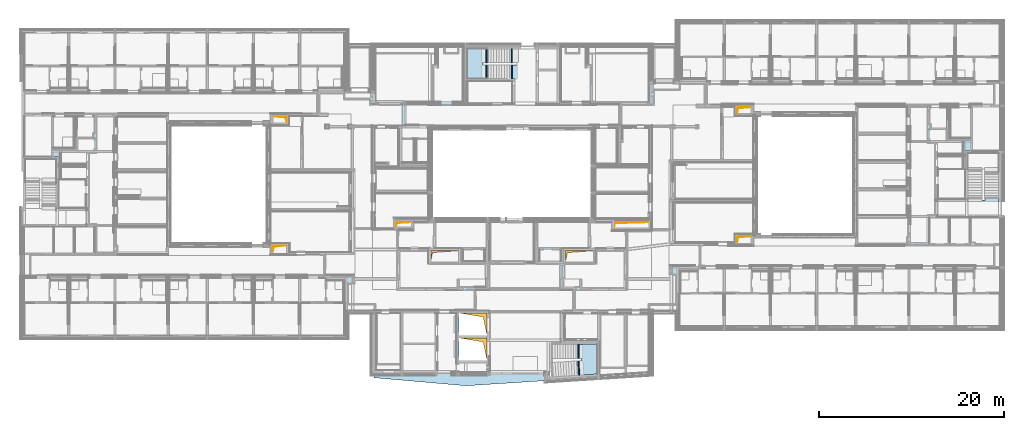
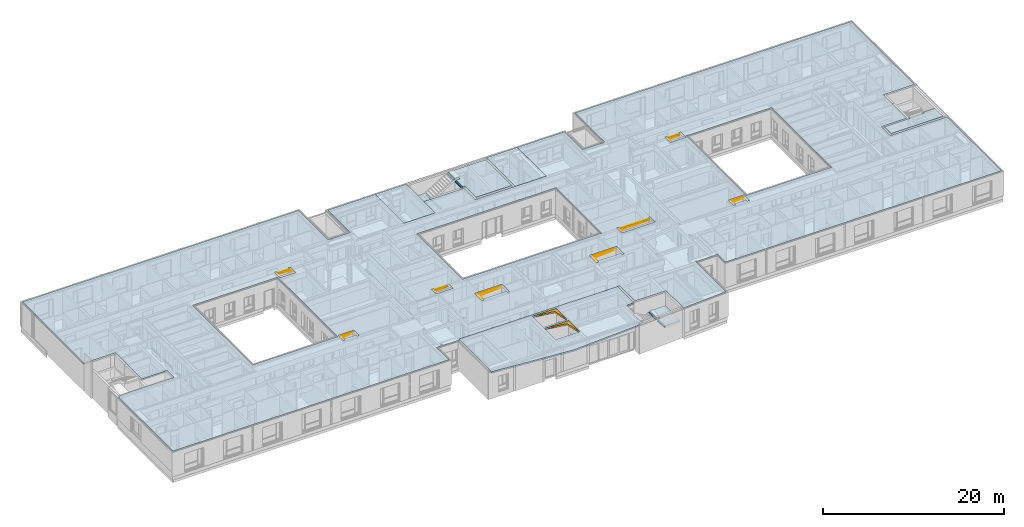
# One storey, part 7 of 207: 14 slabs, 10 windows, 10 openings.
"""IFC4 building model written with IfcOpenShell, lengths in metres."""

from ifc_helpers import new_model, entity, si_unit, converted_unit, derived_unit, frame, frame_2d, origin, origin_with_axes, place, context, subcontext, project, spatial, polyline, rectangle, outline, extrude, open_shell, surface_model, source, transform, mapped, material, element, fill, save


model = new_model("IFC4")

# Units and contexts
model_context = context("Model", 3, precision=1e-05, world=origin())
body_context = subcontext(model_context, "Body", "Model", "MODEL_VIEW")
ifc_project = project(units=[si_unit("LENGTHUNIT", "METRE"), si_unit("AREAUNIT", "SQUARE_METRE"), si_unit("VOLUMEUNIT", "CUBIC_METRE"), si_unit("MASSUNIT", "GRAM", prefix="KILO"), converted_unit("PLANEANGLEUNIT", "DEGREE", entity("IfcPlaneAngleMeasure", 0.0174532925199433), si_unit("PLANEANGLEUNIT", "RADIAN"), dimensions=[0, 0, 0, 0, 0, 0, 0]), derived_unit("THERMALTRANSMITTANCEUNIT", [(si_unit("POWERUNIT", "WATT"), 1), (si_unit("THERMODYNAMICTEMPERATUREUNIT", "KELVIN"), -1), (si_unit("LENGTHUNIT", "METRE"), -2)]), derived_unit("VOLUMETRICFLOWRATEUNIT", [(si_unit("LENGTHUNIT", "METRE"), 3), (converted_unit("TIMEUNIT", "hour", entity("IfcTimeMeasure", 3600.0), si_unit("TIMEUNIT", "SECOND"), dimensions=[0, 0, 1, 0, 0, 0, 0]), -1), (si_unit("LENGTHUNIT", "METRE"), -1)])], contexts=[model_context])

# Site, building, storey
site_placement = place(None, origin())
site = spatial("IfcSite", under=ifc_project, at=site_placement, Name="Psychiatrie Neubau Wunstorf", CompositionType="ELEMENT")
building_placement = place(site_placement, origin())
building = spatial("IfcBuilding", under=site, at=building_placement, Name="Neubau H2 Stationsgebäude", CompositionType="ELEMENT")
storey_placement = place(building_placement, frame((0.0, 0.0, -0.2)))
storey = spatial("IfcBuildingStorey", under=building, at=storey_placement, Name="H2 Ebene 0", CompositionType="ELEMENT", Elevation=-0.2)

# Slabs
ifc_material_1 = material(Name="STB")
slab_1_placement = place(storey_placement, frame((52.895, 25.6349951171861, 3.6)))
element("IfcSlab", 1, at=slab_1_placement, inside=storey, material=ifc_material_1, PredefinedType="FLOOR", context=body_context, shape_type="SweptSolid", body=[
    extrude(outline(polyline([(0.150000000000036, 1.50000487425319), (0.0, 1.50001097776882), (0.0, 6.103515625e-06), (0.15, 0.0), (0.150000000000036, 1.50000487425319)])), origin_with_axes(), (0.0, 0.0, 1.0), 0.16),
])
ifc_material_2 = material(Name="Stb")
slab_2_placement = place(storey_placement, frame((50.145, 25.6349999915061, 1.7655)))
element("IfcSlab", 2, at=slab_2_placement, inside=storey, material=ifc_material_2, PredefinedType="FLOOR", context=body_context, shape_type="SweptSolid", body=[
    extrude(rectangle(XDim=1.49999999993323, YDim=0.152048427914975, at=frame_2d((-0.0760242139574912, 0.749999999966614), x_axis=(0.0, 1.0))), frame((0.152048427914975, 0.0, 0.0), z_axis=(0.0, 0.0, 1.0), x_axis=(1.0, 0.0, 0.0)), (0.0, 0.0, 1.0), 0.14),
])
ifc_material_3 = material(Name="Stb")
slab_3_placement = place(storey_placement, frame((60.1100154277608, -4.63844407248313, 1.7655)))
element("IfcSlab", 3, at=slab_3_placement, inside=storey, material=ifc_material_3, PredefinedType="FLOOR", context=body_context, shape_type="SweptSolid", body=[
    extrude(outline(polyline([(0.15, 0.0), (0.15, 1.55000039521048), (0.0, 1.55000039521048), (0.0, 3.9521047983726e-07), (0.01, 0.0), (0.15, 0.0)])), origin_with_axes(), (0.0, 0.0, 1.0), 0.14),
])
ifc_material_4 = material(Name="H")
slab_4_placement = place(storey_placement, frame((58.1, 22.8639999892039, 3.56)))
element("IfcSlab", 4, at=slab_4_placement, inside=storey, material=ifc_material_4, PredefinedType="FLOOR", context=body_context, shape_type="SweptSolid", body=[
    extrude(rectangle(XDim=6.39599970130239, YDim=3.96250000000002, at=frame_2d((-1.98125000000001, 3.19799985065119), x_axis=(0.0, 1.0))), frame((3.96250000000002, 0.0, 0.0), z_axis=(0.0, 0.0, 1.0), x_axis=(1.0, 0.0, 0.0)), (0.0, 0.0, 1.0), 0.24),
])
ifc_material_5 = material(Name="Stb")
slab_5_placement = place(storey_placement, frame((53.0446466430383, 23.1549999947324, 3.6)))
element("IfcSlab", 5, at=slab_5_placement, inside=storey, material=ifc_material_5, PredefinedType="FLOOR", context=body_context, shape_type="SweptSolid", body=[
    extrude(outline(polyline([(0.000363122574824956, 3.97999999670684), (0.000363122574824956, 3.98000610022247), (0.000359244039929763, 3.98000610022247), (0.000359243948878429, 3.97999999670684), (0.000353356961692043, 3.58538113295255), (0.000353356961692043, 2.4799951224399), (0.255353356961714, 2.47999876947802), (0.255353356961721, 0.0), (4.80535335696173, 0.0), (4.80535335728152, 5.73999969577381), (2.8053533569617, 5.73999969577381), (0.0, 5.73999606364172), (0.000363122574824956, 5.73999604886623), (0.000363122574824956, 4.23999359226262), (0.485353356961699, 4.23999359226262), (0.485353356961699, 3.97999999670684), (0.000363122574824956, 3.97999999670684)])), origin_with_axes(), (0.0, 0.0, 1.0), 0.25),
])
ifc_material_6 = material(Name="STB")
slab_6_placement = place(storey_placement, frame((52.8950097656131, 27.3949939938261, 3.6)))
element("IfcSlab", 6, at=slab_6_placement, inside=storey, material=ifc_material_6, PredefinedType="FLOOR", context=body_context, shape_type="SweptSolid", body=[
    extrude(outline(polyline([(0.15, 1.50000204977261), (0.0, 1.50000815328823), (0.0, 5.69668462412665e-06), (0.15, 0.0), (0.15, 1.50000204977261)])), origin_with_axes(), (0.0, 0.0, 1.0), 0.16),
])
ifc_material_7 = material(Name="Stb")
slab_7_placement = place(storey_placement, frame((99.1199999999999, 10.8749998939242, 3.6)))
element("IfcSlab", 7, at=slab_7_placement, inside=storey, material=ifc_material_7, PredefinedType="FLOOR", context=body_context, shape_type="SweptSolid", body=[
    extrude(outline(polyline([(1.16000000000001, 0.454930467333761), (1.16000000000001, 0.263311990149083), (0.810000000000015, 0.263324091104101), (0.810000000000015, 0.455045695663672), (-0.689999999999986, 0.455045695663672), (-0.689999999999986, 0.163324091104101), (-3.94000000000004, 0.163324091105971), (-3.94000000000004, -1.33667590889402), (2.65999999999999, -1.33667590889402), (2.65999999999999, 0.455045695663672), (1.16000000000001, 0.454930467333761)])), frame((3.94000000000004, 1.33667590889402, 0.0), z_axis=(0.0, 0.0, 1.0), x_axis=(1.0, 0.0, 0.0)), (0.0, 0.0, 1.0), 0.25),
    extrude(outline(polyline([(0.999999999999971, 3.84094433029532e-05), (-0.5, 3.84094433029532e-05), (-0.5, -7.68188866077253e-05), (0.999999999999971, 3.84094433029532e-05)])), frame((5.60000000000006, 1.79168319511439, 0.16), z_axis=(0.0, 0.0, 1.0), x_axis=(1.0, 0.0, 0.0)), (0.0, 0.0, 1.0), 0.09),
])
ifc_material_8 = material(Name="H")
slab_8_placement = place(storey_placement, frame((43.9375, 22.8639999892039, 3.56)))
element("IfcSlab", 8, at=slab_8_placement, inside=storey, material=ifc_material_8, PredefinedType="FLOOR", context=body_context, shape_type="SweptSolid", body=[
    extrude(rectangle(XDim=6.39599970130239, YDim=3.96249999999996, at=frame_2d((-1.98124999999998, 3.1979998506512), x_axis=(0.0, 1.0))), frame((3.96249999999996, 0.0, 0.0), z_axis=(0.0, 0.0, 1.0), x_axis=(1.0, 0.0, 0.0)), (0.0, 0.0, 1.0), 0.24),
])
ifc_material_9 = material(Name="Stb")
slab_9_placement = place(storey_placement, frame((60.1106174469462, -6.46167585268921, 1.7655)))
element("IfcSlab", 9, at=slab_9_placement, inside=storey, material=ifc_material_9, PredefinedType="FLOOR", context=body_context, shape_type="SweptSolid", body=[
    extrude(outline(polyline([(0.0, 1.49527291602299), (0.0961312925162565, 0.0), (0.245823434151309, 0.00960534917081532), (0.149692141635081, 1.50487826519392), (0.0, 1.49527291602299)])), origin_with_axes(), (0.0, 0.0, 1.0), 0.14),
])
ifc_material_10 = material(Name="Stb")
slab_10_placement = place(storey_placement, frame((60.1106174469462, -6.4520705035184, 1.7655)))
element("IfcSlab", 10, at=slab_10_placement, inside=storey, material=ifc_material_10, PredefinedType="FLOOR", context=body_context, shape_type="SweptSolid", body=[
    extrude(outline(polyline([(0.149397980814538, 3.36362682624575), (0.149397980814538, 1.81362643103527), (0.00939798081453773, 1.81362643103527), (0.439159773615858, 1.81357918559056), (0.439095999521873, 1.51385804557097), (0.0, 1.48566756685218), (0.149692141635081, 1.4952729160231), (0.245823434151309, 0.0), (2.13917620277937, 0.121514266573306), (2.13917620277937, 3.36357918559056), (0.149397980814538, 3.36362682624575)])), origin_with_axes(), (0.0, 0.0, 1.0), 0.25),
])
ifc_material_11 = material(Name="Stb")
slab_11_placement = place(storey_placement, frame((50.145, 27.3949996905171, 1.7655)))
element("IfcSlab", 11, at=slab_11_placement, inside=storey, material=ifc_material_11, PredefinedType="FLOOR", context=body_context, shape_type="SweptSolid", body=[
    extrude(rectangle(XDim=1.49999999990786, YDim=0.162048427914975, at=frame_2d((-0.0810242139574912, 0.749999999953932), x_axis=(0.0, 1.0))), frame((0.162048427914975, 0.0, 0.0), z_axis=(0.0, 0.0, 1.0), x_axis=(1.0, 0.0, 0.0)), (0.0, 0.0, 1.0), 0.14),
])
ifc_material_12 = material(Name="Stb")
slab_12_placement = place(storey_placement, frame((48.15, 25.6349999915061, 1.7655)))
element("IfcSlab", 12, at=slab_12_placement, inside=storey, material=ifc_material_12, PredefinedType="FLOOR", context=body_context, shape_type="SweptSolid", body=[
    extrude(outline(polyline([(1.995, 3.25999969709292), (0.0, 3.25999969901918), (0.0, 0.0), (1.995, 0.0), (1.995, 1.49999999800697), (1.7, 1.49999999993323), (1.7, 1.75999969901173), (1.995, 1.75999969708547), (1.995, 3.25999969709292)])), origin_with_axes(), (0.0, 0.0, 1.0), 0.25),
])

# Slab, openings, windows
ifc_material_13 = material(Name="H")
slab_13_placement = place(storey_placement, frame((-0.121000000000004, -6.6802504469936, 3.6)))
slab_13 = element("IfcSlab", 13, at=slab_13_placement, inside=storey, material=ifc_material_13, PredefinedType="FLOOR", context=body_context, shape_type="SweptSolid", body=[
    extrude(outline(polyline([(41.0504404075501, 7.20524981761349), (55.5106630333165, 7.20524667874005), (55.5106630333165, 7.20538478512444), (58.3989901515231, 7.2052460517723), (58.6490000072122, 7.2052504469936), (58.649000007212, 3.8417591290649), (62.6207936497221, 3.8417591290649), (62.6207936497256, 0.365736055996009), (62.6210107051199, 0.365749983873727), (62.6210107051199, 0.0), (68.2634937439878, 0.362353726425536), (68.2635, 7.0202528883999), (71.036, 7.02025013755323), (71.036, 5.32025044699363), (106.206, 5.32025044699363), (106.206, 17.3052503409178), (98.9909999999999, 17.3052503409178), (98.9909999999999, 19.3052503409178), (102.241, 19.3052503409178), (102.241, 24.5052504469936), (106.206, 24.5052504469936), (106.206, 38.4902504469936), (71.036, 38.4902504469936), (71.036, 31.9902504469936), (68.206, 31.9902504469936), (68.206, 35.9402501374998), (62.1835, 35.9402501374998), (62.1835, 29.5442504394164), (53.1710000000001, 29.5442504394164), (53.1710000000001, 32.0652504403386), (48.021, 32.0652504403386), (48.021, 29.5442504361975), (44.0585, 29.5442504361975), (44.0585, 35.9402501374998), (38.0335, 35.9402501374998), (38.0335, 30.9902504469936), (35.206, 30.9902504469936), (35.206, 37.4902504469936), (0.0360000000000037, 37.4902504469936), (0.0360000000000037, 32.0695130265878), (0.0, 32.0695130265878), (0.0, 23.8752355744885), (4.001, 23.8752503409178), (4.001, 18.0552503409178), (7.251, 18.0552503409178), (7.251, 16.5552503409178), (0.151000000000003, 16.5552503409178), (0.151000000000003, 16.3052503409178), (0.0370000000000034, 16.3052503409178), (0.0370000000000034, 4.32025044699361), (35.206, 4.32025044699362), (35.206, 7.0202528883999), (38.151, 7.0202528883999), (38.151, 7.2052504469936), (40.7509987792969, 7.20524988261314), (40.7509987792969, 7.20527125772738), (47.5709989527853, 7.20527125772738), (47.5709989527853, 7.2052504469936), (41.0504404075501, 7.20524981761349)]), holes=[polyline([(44.2560000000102, 27.0702484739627), (61.9860000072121, 27.0702484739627), (61.9860000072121, 16.9902501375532), (44.2560000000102, 16.9902501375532), (44.2560000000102, 27.0702484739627)]), polyline([(15.956, 14.2902504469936), (15.956, 27.5202504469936), (26.786, 27.5202504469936), (26.786, 14.2902504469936), (15.956, 14.2902504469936)]), polyline([(90.286, 15.2902504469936), (79.456, 15.2902504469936), (79.456, 28.5202504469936), (90.286, 28.5202504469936), (90.286, 15.2902504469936)]), polyline([(58.6710000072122, 13.9552501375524), (62.1710000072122, 13.9552501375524), (62.1710000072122, 12.3277501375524), (61.9210000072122, 12.3277501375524), (61.9209889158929, 12.577750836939), (58.9209899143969, 12.577750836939), (58.9210000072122, 12.3277501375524), (58.6710000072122, 12.3277501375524), (58.6710000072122, 13.9552501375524)]), polyline([(47.3209950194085, 12.577750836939), (44.3209950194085, 12.577750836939), (44.3210000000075, 12.3277506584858), (44.0710000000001, 12.3277506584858), (44.0710000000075, 13.6907490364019), (44.0710000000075, 13.9552501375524), (47.5710000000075, 13.9552501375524), (47.5710000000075, 12.3277506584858), (47.3210000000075, 12.3277506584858), (47.3209950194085, 12.577750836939)]), polyline([(63.9310000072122, 17.0262501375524), (64.1810000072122, 17.0262501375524), (64.1809925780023, 16.7762495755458), (67.9809925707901, 16.7762495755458), (67.981, 17.0262501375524), (68.2009889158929, 17.0262495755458), (68.2009889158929, 15.9152495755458), (63.9310000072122, 15.9152501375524), (63.9310000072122, 17.0262501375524)]), polyline([(77.271, 15.5052504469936), (79.271, 15.5052504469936), (79.271, 14.3177504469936), (79.021, 14.3177504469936), (79.0209894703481, 14.5677499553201), (77.5209889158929, 14.5677499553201), (77.521, 14.3177504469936), (77.271, 14.3177504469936), (77.271, 15.5052504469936)]), polyline([(79.021, 29.4862504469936), (79.271, 29.4862504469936), (79.271, 28.3052504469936), (77.271, 28.3052504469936), (77.271, 29.4862504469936), (77.521, 29.4862504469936), (77.5210011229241, 29.2362513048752), (79.0210011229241, 29.2362513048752), (79.021, 29.4862504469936)]), polyline([(28.971, 13.3222504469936), (28.721, 13.3222504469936), (28.721, 14.2552504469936), (27.221, 14.2552504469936), (27.221, 13.3222504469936), (26.971, 13.3222504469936), (26.971, 14.5052504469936), (28.971, 14.5052504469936), (28.971, 13.3222504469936)]), polyline([(28.971, 27.3052504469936), (26.971, 27.3052504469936), (26.9710011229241, 28.4862507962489), (27.221000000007, 28.4862500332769), (27.2210000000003, 27.5552504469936), (28.7210000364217, 27.5552504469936), (28.7210008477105, 28.4862454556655), (28.971, 28.4862504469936), (28.971, 27.3052504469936)]), polyline([(40.570951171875, 17.0262502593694), (40.570951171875, 16.265247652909), (42.220951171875, 16.265247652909), (42.220951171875, 16.7942502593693), (42.470951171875, 16.7942502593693), (42.470951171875, 16.0152466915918), (40.320951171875, 16.0152466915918), (40.320951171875, 17.0262502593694), (40.570951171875, 17.0262502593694)])]), origin_with_axes(), (0.0, 0.0, 1.0), 0.2),
])
opening_1_placement = place(slab_13_placement, frame((27.2210000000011, 27.5552504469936, 0.0)))
opening_1 = element("IfcOpeningElement", 14, at=opening_1_placement, cuts=slab_13, Name="Deckendurchbruch", ObjectType="Opening", context=body_context, shape_type="SweptSolid", body=[
    extrude(rectangle(XDim=1.50000005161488, YDim=0.680997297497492, at=frame_2d((0.0, 0.0), x_axis=(-1.0, 0.0))), frame((0.75000002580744, 0.340498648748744, 0.0), z_axis=(0.0, 0.0, 1.0), x_axis=(1.0, 0.0, 0.0)), (0.0, 0.0, 1.0), 0.2),
])
opening_2_placement = place(slab_13_placement, frame((64.180988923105, 16.1652480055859, 0.0)))
opening_2 = element("IfcOpeningElement", 15, at=opening_2_placement, cuts=slab_13, Name="Deckendurchbruch", ObjectType="Opening", context=body_context, shape_type="SweptSolid", body=[
    extrude(rectangle(XDim=0.61100156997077, YDim=3.79999999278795, at=frame_2d((0.0, 0.0), x_axis=(-5.98181324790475e-06, -0.999999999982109))), frame((1.90000182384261, 0.30550078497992, 0.0), z_axis=(0.0, 0.0, 1.0), x_axis=(1.0, 0.0, 0.0)), (0.0, 0.0, 1.0), 0.2),
])
opening_3_placement = place(slab_13_placement, frame((44.3209950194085, 12.577750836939, 0.0)))
opening_3 = element("IfcOpeningElement", 16, at=opening_3_placement, cuts=slab_13, Name="Deckendurchbruch", ObjectType="Opening", context=body_context, shape_type="SweptSolid", body=[
    extrude(rectangle(XDim=1.12749930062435, YDim=3.0, at=frame_2d((0.0, 0.0), x_axis=(-4.41738539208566e-06, -0.999999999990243))), frame((1.50000249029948, 0.563749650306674, 0.0), z_axis=(0.0, 0.0, 1.0), x_axis=(1.0, 0.0, 0.0)), (0.0, 0.0, 1.0), 0.2),
])
opening_4_placement = place(slab_13_placement, frame((77.521, 28.5552504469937, 0.0)))
opening_4 = element("IfcOpeningElement", 17, at=opening_4_placement, cuts=slab_13, Name="Deckendurchbruch", ObjectType="Opening", context=body_context, shape_type="SweptSolid", body=[
    extrude(rectangle(XDim=0.681000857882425, YDim=1.5, at=frame_2d((0.0, 0.0), x_axis=(-1.64893204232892e-06, -0.999999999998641))), frame((0.75000056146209, 0.340500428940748, 0.0), z_axis=(0.0, 0.0, 1.0), x_axis=(1.0, 0.0, 0.0)), (0.0, 0.0, 1.0), 0.2),
])
opening_5_placement = place(slab_13_placement, frame((40.5709461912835, 16.265247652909, 0.0)))
opening_5 = element("IfcOpeningElement", 18, at=opening_5_placement, cuts=slab_13, Name="Deckendurchbruch", ObjectType="Opening", context=body_context, shape_type="SweptSolid", body=[
    extrude(rectangle(XDim=0.511001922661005, YDim=1.65, at=frame_2d((0.0, 0.0), x_axis=(9.74671761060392e-06, -0.999999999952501))), frame((0.825002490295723, 0.255500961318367, 0.0), z_axis=(0.0, 0.0, 1.0), x_axis=(1.0, 0.0, 0.0)), (0.0, 0.0, 1.0), 0.2),
])
opening_6_placement = place(slab_13_placement, frame((27.221, 13.5722487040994, 0.0)))
opening_6 = element("IfcOpeningElement", 19, at=opening_6_placement, cuts=slab_13, Name="Deckendurchbruch", ObjectType="Opening", context=body_context, shape_type="SweptSolid", body=[
    extrude(rectangle(XDim=0.683001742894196, YDim=1.5, at=frame_2d((0.0, 0.0), x_axis=(0.0, -1.0))), frame((0.75, 0.341500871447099, 0.0), z_axis=(0.0, 0.0, 1.0), x_axis=(1.0, 0.0, 0.0)), (0.0, 0.0, 1.0), 0.2),
])
opening_7_placement = place(slab_13_placement, frame((58.9209889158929, 12.577750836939, 0.0)))
opening_7 = element("IfcOpeningElement", 20, at=opening_7_placement, cuts=slab_13, Name="Deckendurchbruch", ObjectType="Opening", context=body_context, shape_type="SweptSolid", body=[
    extrude(rectangle(XDim=1.12749350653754, YDim=3.0, at=frame_2d((0.0, 0.0), x_axis=(0.0, -1.0))), frame((1.50000000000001, 0.563746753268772, 0.0), z_axis=(0.0, 0.0, 1.0), x_axis=(1.0, 0.0, 0.0)), (0.0, 0.0, 1.0), 0.2),
])
opening_8_placement = place(slab_13_placement, frame((77.5210011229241, 14.5677499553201, 0.0)))
opening_8 = element("IfcOpeningElement", 21, at=opening_8_placement, cuts=slab_13, Name="Deckendurchbruch", ObjectType="Opening", context=body_context, shape_type="SweptSolid", body=[
    extrude(rectangle(XDim=0.687494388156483, YDim=1.5, at=frame_2d((0.0, 0.0), x_axis=(0.0, -1.0))), frame((0.75, 0.343747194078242, 0.0), z_axis=(0.0, 0.0, 1.0), x_axis=(1.0, 0.0, 0.0)), (0.0, 0.0, 1.0), 0.2),
])
shared_shape_1 = source(origin_with_axes(), body_context, "Body", "SurfaceModel", [
    surface_model("IfcShellBasedSurfaceModel", [(0.680997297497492, 0.0, 0.0), (0.0, 0.0, 0.0), (0.0, 1.50000005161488, 0.0), (0.120384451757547, 0.120384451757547, 0.0)], [open_shell([[[0, 1, 2, 3]]], orient=[[False]])]),
    surface_model("IfcShellBasedSurfaceModel", [(0.680997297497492, 0.0, 0.2), (0.0, 0.0, 0.2), (0.0, 1.50000005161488, 0.2), (0.120384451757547, 0.120384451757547, 0.2)], [open_shell([[[0, 1, 2, 3]]], orient=[[False]])]),
])
window_1_placement = place(opening_1_placement, frame((1.50000005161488, 0.680997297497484, 0.0), z_axis=(0.0, 0.0, 1.0), x_axis=(-1.22464679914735e-16, -1.0, 0.0)))
window_1 = element("IfcWindow", 22, at=window_1_placement, inside=storey, Name="Symbol BD", OverallHeight=1.5, OverallWidth=0.681, PartitioningType="USERDEFINED", PredefinedType="SKYLIGHT", context=body_context, shape_type="MappedRepresentation", body=[
    mapped(shared_shape_1, transform((0.0, 0.0, 0.0), x_axis=(1.0, 0.0, 0.0), y_axis=(0.0, -1.0, 0.0), z_axis=(0.0, 0.0, 1.0), scale=1.0)),
])
fill(opening_1, window_1)
shared_shape_2 = source(origin_with_axes(), body_context, "Body", "SurfaceModel", [
    surface_model("IfcShellBasedSurfaceModel", [(3.80000364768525, 0.611001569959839, 0.0), (3.65489728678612e-06, 0.611001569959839, 0.0), (0.0, 0.0, 0.0), (0.108014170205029, 0.502990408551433, 0.0)], [open_shell([[[0, 1, 2, 3]]], orient=[[False]])]),
    surface_model("IfcShellBasedSurfaceModel", [(3.80000364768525, 0.611001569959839, 0.2), (3.65489728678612e-06, 0.611001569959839, 0.2), (0.0, 0.0, 0.2), (0.108014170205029, 0.502990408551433, 0.2)], [open_shell([[[0, 1, 2, 3]]], orient=[[False]])]),
])
window_2_placement = place(opening_2_placement, origin())
window_2 = element("IfcWindow", 23, at=window_2_placement, inside=storey, Name="Symbol BD", OverallHeight=0.611, OverallWidth=3.8, PartitioningType="USERDEFINED", PredefinedType="SKYLIGHT", context=body_context, shape_type="MappedRepresentation", body=[
    mapped(shared_shape_2, transform((0.0, 0.0, 0.0), x_axis=(1.0, 0.0, 0.0), y_axis=(0.0, 1.0, 0.0), z_axis=(0.0, 0.0, 1.0), scale=1.0)),
])
fill(opening_2, window_2)
shared_shape_3 = source(origin_with_axes(), body_context, "Body", "SurfaceModel", [
    surface_model("IfcShellBasedSurfaceModel", [(3.00000498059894, 1.12749930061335, 0.0), (4.98059893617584e-06, 1.12749930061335, 0.0), (0.0, 0.0, 0.0), (0.199320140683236, 0.928183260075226, 0.0)], [open_shell([[[0, 1, 2, 3]]], orient=[[False]])]),
    surface_model("IfcShellBasedSurfaceModel", [(3.00000498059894, 1.12749930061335, 0.2), (4.98059893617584e-06, 1.12749930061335, 0.2), (0.0, 0.0, 0.2), (0.199320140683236, 0.928183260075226, 0.2)], [open_shell([[[0, 1, 2, 3]]], orient=[[False]])]),
])
window_3_placement = place(opening_3_placement, origin())
window_3 = element("IfcWindow", 24, at=window_3_placement, inside=storey, Name="Symbol BD", OverallHeight=1.1275, OverallWidth=3.0, PartitioningType="USERDEFINED", PredefinedType="SKYLIGHT", context=body_context, shape_type="MappedRepresentation", body=[
    mapped(shared_shape_3, transform((0.0, 0.0, 0.0), x_axis=(1.0, 0.0, 0.0), y_axis=(0.0, 1.0, 0.0), z_axis=(0.0, 0.0, 1.0), scale=1.0)),
])
fill(opening_3, window_3)
window_4_placement = place(opening_7_placement, origin())
window_4 = element("IfcWindow", 25, at=window_4_placement, inside=storey, Name="Symbol BD", OverallHeight=1.1275, OverallWidth=3.0, PartitioningType="USERDEFINED", PredefinedType="SKYLIGHT", context=body_context, shape_type="MappedRepresentation", body=[
    mapped(shared_shape_3, transform((0.0, 0.0, 0.0), x_axis=(1.0, 0.0, 0.0), y_axis=(0.0, 1.0, 0.0), z_axis=(0.0, 0.0, 1.0), scale=1.0)),
])
fill(opening_7, window_4)
shared_shape_4 = source(origin_with_axes(), body_context, "Body", "SurfaceModel", [
    surface_model("IfcShellBasedSurfaceModel", [(0.0, 0.0, 0.0), (1.5, 0.0, 0.0), (1.50000112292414, 0.681000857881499, 0.0), (1.37961501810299, 0.120385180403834, 0.0)], [open_shell([[[0, 1, 2, 3]]], orient=[[False]])]),
    surface_model("IfcShellBasedSurfaceModel", [(0.0, 0.0, 0.2), (1.5, 0.0, 0.2), (1.50000112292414, 0.681000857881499, 0.2), (1.37961501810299, 0.120385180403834, 0.2)], [open_shell([[[0, 1, 2, 3]]], orient=[[False]])]),
])
window_5_placement = place(opening_4_placement, frame((1.50000112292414, 0.6810008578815, 0.0), z_axis=(0.0, 0.0, 1.0), x_axis=(-1.0, 1.22464679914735e-16, 0.0)))
window_5 = element("IfcWindow", 26, at=window_5_placement, inside=storey, Name="Symbol BD", OverallHeight=0.681, OverallWidth=1.5, PartitioningType="USERDEFINED", PredefinedType="SKYLIGHT", context=body_context, shape_type="MappedRepresentation", body=[
    mapped(shared_shape_4, transform((0.0, 0.0, 0.0), x_axis=(1.0, 0.0, 0.0), y_axis=(0.0, 1.0, 0.0), z_axis=(0.0, 0.0, 1.0), scale=1.0)),
])
fill(opening_4, window_5)
shared_shape_5 = source(origin_with_axes(), body_context, "Body", "SurfaceModel", [
    surface_model("IfcShellBasedSurfaceModel", [(1.65000000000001, 0.511001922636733, 0.0), (0.0, 0.511001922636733, 0.0), (4.98059144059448e-06, 0.0, 0.0), (0.0903336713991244, 0.420669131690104, 0.0)], [open_shell([[[0, 1, 2, 3]]], orient=[[False]])]),
    surface_model("IfcShellBasedSurfaceModel", [(1.65000000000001, 0.511001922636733, 0.2), (0.0, 0.511001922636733, 0.2), (4.98059144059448e-06, 0.0, 0.2), (0.0903336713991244, 0.420669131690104, 0.2)], [open_shell([[[0, 1, 2, 3]]], orient=[[False]])]),
])
window_6_placement = place(opening_5_placement, origin())
window_6 = element("IfcWindow", 27, at=window_6_placement, inside=storey, Name="Symbol BD", OverallHeight=0.511, OverallWidth=1.65, PartitioningType="USERDEFINED", PredefinedType="SKYLIGHT", context=body_context, shape_type="MappedRepresentation", body=[
    mapped(shared_shape_5, transform((0.0, 0.0, 0.0), x_axis=(1.0, 0.0, 0.0), y_axis=(0.0, 1.0, 0.0), z_axis=(0.0, 0.0, 1.0), scale=1.0)),
])
fill(opening_5, window_6)
shared_shape_6 = source(origin_with_axes(), body_context, "Body", "SurfaceModel", [
    surface_model("IfcShellBasedSurfaceModel", [(1.5, 0.683001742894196, 0.0), (0.0, 0.683001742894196, 0.0), (0.0, 0.0, 0.0), (0.120738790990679, 0.562262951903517, 0.0)], [open_shell([[[0, 1, 2, 3]]], orient=[[False]])]),
    surface_model("IfcShellBasedSurfaceModel", [(1.5, 0.683001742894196, 0.2), (0.0, 0.683001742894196, 0.2), (0.0, 0.0, 0.2), (0.120738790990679, 0.562262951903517, 0.2)], [open_shell([[[0, 1, 2, 3]]], orient=[[False]])]),
])
window_7_placement = place(opening_6_placement, origin())
window_7 = element("IfcWindow", 28, at=window_7_placement, inside=storey, Name="Symbol BD", OverallHeight=0.683, OverallWidth=1.5, PartitioningType="USERDEFINED", PredefinedType="SKYLIGHT", context=body_context, shape_type="MappedRepresentation", body=[
    mapped(shared_shape_6, transform((0.0, 0.0, 0.0), x_axis=(1.0, 0.0, 0.0), y_axis=(0.0, 1.0, 0.0), z_axis=(0.0, 0.0, 1.0), scale=1.0)),
])
fill(opening_6, window_7)
shared_shape_7 = source(origin_with_axes(), body_context, "Body", "SurfaceModel", [
    surface_model("IfcShellBasedSurfaceModel", [(1.5, 0.687494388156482, 0.0), (0.0, 0.687494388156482, 0.0), (0.0, 0.0, 0.0), (0.121532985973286, 0.565961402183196, 0.0)], [open_shell([[[0, 1, 2, 3]]], orient=[[False]])]),
    surface_model("IfcShellBasedSurfaceModel", [(1.5, 0.687494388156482, 0.2), (0.0, 0.687494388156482, 0.2), (0.0, 0.0, 0.2), (0.121532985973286, 0.565961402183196, 0.2)], [open_shell([[[0, 1, 2, 3]]], orient=[[False]])]),
])
window_8_placement = place(opening_8_placement, origin())
window_8 = element("IfcWindow", 29, at=window_8_placement, inside=storey, Name="Symbol BD", OverallHeight=0.68749, OverallWidth=1.5, PartitioningType="USERDEFINED", PredefinedType="SKYLIGHT", context=body_context, shape_type="MappedRepresentation", body=[
    mapped(shared_shape_7, transform((0.0, 0.0, 0.0), x_axis=(1.0, 0.0, 0.0), y_axis=(0.0, 1.0, 0.0), z_axis=(0.0, 0.0, 1.0), scale=1.0)),
])
fill(opening_8, window_8)

ifc_material_14 = material(Name="Stb.")
slab_14_placement = place(storey_placement, frame((38.03, -7.60940844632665, 3.6)))
slab_14 = element("IfcSlab", 30, at=slab_14_placement, inside=storey, material=ifc_material_14, PredefinedType="FLOOR", context=body_context, shape_type="SweptSolid", body=[
    extrude(outline(polyline([(17.3596630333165, 8.13440405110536), (0.0, 8.13440844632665), (0.0, 0.877220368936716), (9.99834485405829, 0.0), (18.7633759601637, 0.562428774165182), (18.7633759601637, 0.928727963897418), (19.4307991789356, 0.994786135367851), (19.3362710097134, 2.46675956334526), (19.3297608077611, 2.97127052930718), (19.3300153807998, 4.52091712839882), (20.248000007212, 4.52091712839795), (20.2479901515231, 8.13440405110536), (17.3596630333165, 8.1345427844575), (17.3596630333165, 8.13440405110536)])), origin_with_axes(), (0.0, 0.0, 1.0), 0.2),
])
opening_9_placement = place(slab_14_placement, frame((9.23999515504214, 5.43440844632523, 0.0)))
opening_9 = element("IfcOpeningElement", 31, at=opening_9_placement, cuts=slab_14, Name="Deckendurchbruch", ObjectType="Opening", context=body_context, shape_type="SweptSolid", body=[
    extrude(rectangle(XDim=3.0299998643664, YDim=2.45001220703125, at=frame_2d((0.0, 0.0), x_axis=(-1.0, 0.0))), frame((1.51499993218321, 1.22500610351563, 0.0), z_axis=(0.0, 0.0, 1.0), x_axis=(1.0, 0.0, 0.0)), (0.0, 0.0, 1.0), 0.2),
])
opening_10_placement = place(slab_14_placement, frame((9.23999515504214, 2.73440234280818, 0.0)))
opening_10 = element("IfcOpeningElement", 32, at=opening_10_placement, cuts=slab_14, Name="Deckendurchbruch", ObjectType="Opening", context=body_context, shape_type="SweptSolid", body=[
    extrude(rectangle(XDim=3.0299998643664, YDim=2.45000610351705, at=frame_2d((0.0, 0.0), x_axis=(-1.0, 4.70055698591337e-13))), frame((1.51499993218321, 1.22500305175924, 0.0), z_axis=(0.0, 0.0, 1.0), x_axis=(1.0, 0.0, 0.0)), (0.0, 0.0, 1.0), 0.2),
])
shared_shape_8 = source(origin_with_axes(), body_context, "Body", "SurfaceModel", [
    surface_model("IfcShellBasedSurfaceModel", [(0.0, 0.0, 0.0), (2.45001220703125, 0.0, 0.0), (2.45001220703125, 3.0299998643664, 0.0), (2.01690714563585, 0.433105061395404, 0.0)], [open_shell([[[0, 1, 2, 3]]], orient=[[False]])]),
    surface_model("IfcShellBasedSurfaceModel", [(0.0, 0.0, 0.2), (2.45001220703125, 0.0, 0.2), (2.45001220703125, 3.0299998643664, 0.2), (2.01690714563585, 0.433105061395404, 0.2)], [open_shell([[[0, 1, 2, 3]]], orient=[[False]])]),
])
window_9_placement = place(opening_9_placement, frame((3.02999986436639, 0.0, 0.0), z_axis=(0.0, 0.0, 1.0), x_axis=(1.22464679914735e-16, 1.0, 0.0)))
window_9 = element("IfcWindow", 33, at=window_9_placement, inside=storey, Name="Symbol BD", OverallHeight=3.03, OverallWidth=2.45001, PartitioningType="USERDEFINED", PredefinedType="SKYLIGHT", context=body_context, shape_type="MappedRepresentation", body=[
    mapped(shared_shape_8, transform((0.0, 0.0, 0.0), x_axis=(1.0, 0.0, 0.0), y_axis=(0.0, 1.0, 0.0), z_axis=(0.0, 0.0, 1.0), scale=1.0)),
])
fill(opening_9, window_9)
shared_shape_9 = source(origin_with_axes(), body_context, "Body", "SurfaceModel", [
    surface_model("IfcShellBasedSurfaceModel", [(2.4500003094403, 3.0299951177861, 0.0), (0.0, 3.0299951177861, 0.0), (0.0, 0.0, 0.0), (0.433102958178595, 2.59689215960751, 0.0)], [open_shell([[[0, 1, 2, 3]]], orient=[[False]])]),
    surface_model("IfcShellBasedSurfaceModel", [(2.4500003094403, 3.0299951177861, 0.2), (0.0, 3.0299951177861, 0.2), (0.0, 0.0, 0.2), (0.433102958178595, 2.59689215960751, 0.2)], [open_shell([[[0, 1, 2, 3]]], orient=[[False]])]),
])
window_10_placement = place(opening_10_placement, frame((0.0, 2.45000610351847, 0.0), z_axis=(0.0, 0.0, 1.0), x_axis=(1.22464679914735e-16, -1.0, 0.0)))
window_10 = element("IfcWindow", 34, at=window_10_placement, inside=storey, Name="Symbol BD", OverallHeight=3.03, OverallWidth=2.45, PartitioningType="USERDEFINED", PredefinedType="SKYLIGHT", context=body_context, shape_type="MappedRepresentation", body=[
    mapped(shared_shape_9, transform((0.0, 0.0, 0.0), x_axis=(1.0, 0.0, 0.0), y_axis=(0.0, 1.0, 0.0), z_axis=(0.0, 0.0, 1.0), scale=1.0)),
])
fill(opening_10, window_10)

save(model, "model.ifc")
